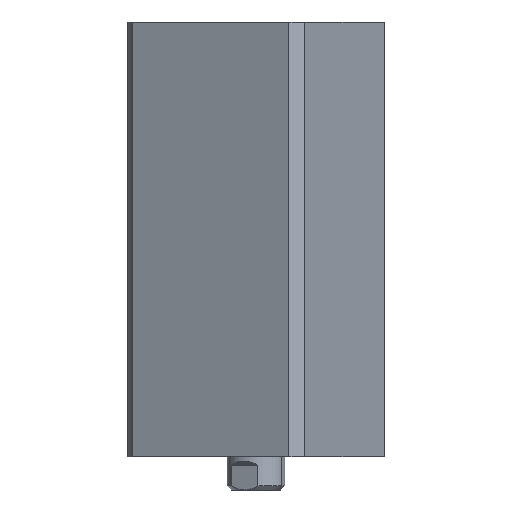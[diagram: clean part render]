
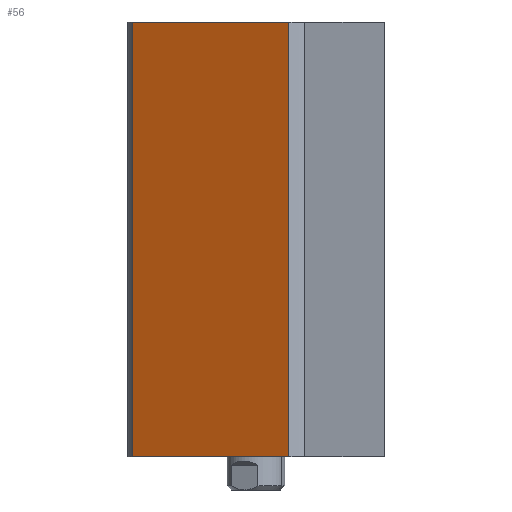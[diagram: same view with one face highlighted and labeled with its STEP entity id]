
A CAD part, front view. The second image highlights one B-rep face of the part: STEP entity #56.
In plain terms, the highlighted planar face has unit normal (-0.455, -0.89, 0) as drawn and (1, 0, 0) by its records, which use the part's own axes.
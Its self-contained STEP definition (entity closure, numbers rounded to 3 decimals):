
#56 = ADVANCED_FACE ( 'NONE', ( #6101 ), #5398, .F. ) ;
#652 = DIRECTION ( 'NONE',  ( 0., 1., 0. ) ) ;
#722 = CARTESIAN_POINT ( 'NONE',  ( 24., 21.166, 105. ) ) ;
#814 = DIRECTION ( 'NONE',  ( 0., 0., 1. ) ) ;
#1206 = DIRECTION ( 'NONE',  ( 0., 0., -1. ) ) ;
#1356 = VECTOR ( 'NONE', #7869, 1000. ) ;
#1694 = CARTESIAN_POINT ( 'NONE',  ( 24., -21.166, 0. ) ) ;
#1764 = EDGE_CURVE ( 'NONE', #7359, #4687, #5580, .T. ) ;
#2242 = VECTOR ( 'NONE', #1206, 1000. ) ;
#2385 = ORIENTED_EDGE ( 'NONE', *, *, #2848, .F. ) ;
#2639 = VERTEX_POINT ( 'NONE', #722 ) ;
#2665 = CARTESIAN_POINT ( 'NONE',  ( 24., -21.166, -195. ) ) ;
#2848 = EDGE_CURVE ( 'NONE', #2639, #3419, #3872, .T. ) ;
#2924 = CARTESIAN_POINT ( 'NONE',  ( 24., -21.166, 105. ) ) ;
#3419 = VERTEX_POINT ( 'NONE', #5279 ) ;
#3872 = LINE ( 'NONE', #6396, #2242 ) ;
#3932 = EDGE_CURVE ( 'NONE', #4687, #2639, #6833, .T. ) ;
#3968 = VECTOR ( 'NONE', #814, 1000. ) ;
#4103 = ORIENTED_EDGE ( 'NONE', *, *, #6818, .T. ) ;
#4356 = CARTESIAN_POINT ( 'NONE',  ( 24., 24., 0. ) ) ;
#4687 = VERTEX_POINT ( 'NONE', #2924 ) ;
#4875 = VECTOR ( 'NONE', #652, 1000. ) ;
#5278 = DIRECTION ( 'NONE',  ( 0., -1., 0. ) ) ;
#5279 = CARTESIAN_POINT ( 'NONE',  ( 24., 21.166, 0. ) ) ;
#5308 = DIRECTION ( 'NONE',  ( -1., 0., 0. ) ) ;
#5398 = PLANE ( 'NONE',  #5604 ) ;
#5428 = EDGE_LOOP ( 'NONE', ( #5857, #4103, #2385, #6992 ) ) ;
#5455 = CARTESIAN_POINT ( 'NONE',  ( 24., 24., 105. ) ) ;
#5580 = LINE ( 'NONE', #2665, #3968 ) ;
#5604 = AXIS2_PLACEMENT_3D ( 'NONE', #5455, #5308, #5278 ) ;
#5857 = ORIENTED_EDGE ( 'NONE', *, *, #1764, .F. ) ;
#6019 = CARTESIAN_POINT ( 'NONE',  ( 24., 24., 105. ) ) ;
#6101 = FACE_OUTER_BOUND ( 'NONE', #5428, .T. ) ;
#6396 = CARTESIAN_POINT ( 'NONE',  ( 24., 21.166, -195. ) ) ;
#6526 = LINE ( 'NONE', #4356, #4875 ) ;
#6818 = EDGE_CURVE ( 'NONE', #7359, #3419, #6526, .T. ) ;
#6833 = LINE ( 'NONE', #6019, #1356 ) ;
#6992 = ORIENTED_EDGE ( 'NONE', *, *, #3932, .F. ) ;
#7359 = VERTEX_POINT ( 'NONE', #1694 ) ;
#7869 = DIRECTION ( 'NONE',  ( 0., 1., 0. ) ) ;
